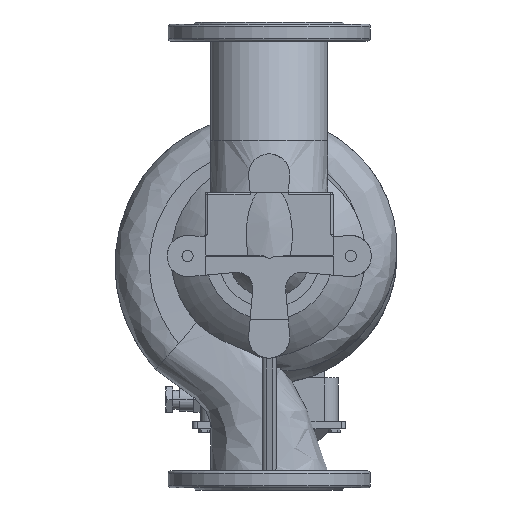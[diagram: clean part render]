
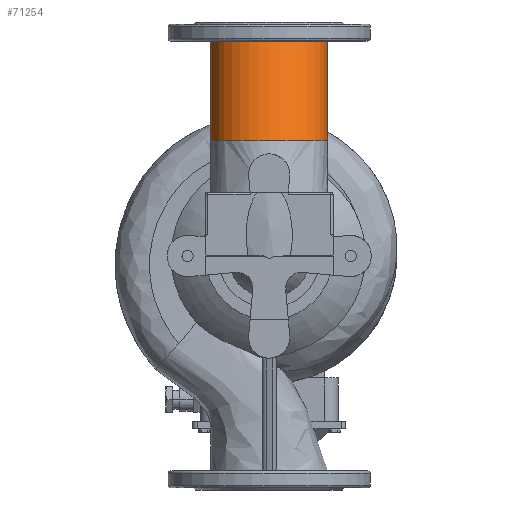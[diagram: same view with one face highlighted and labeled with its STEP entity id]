
A CAD part, front view. The second image highlights one B-rep face of the part: STEP entity #71254.
In plain terms, the highlighted free-form (B-spline) face has degree [3, 1] with [4, 2] control points.
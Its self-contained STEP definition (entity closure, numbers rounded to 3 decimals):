
#182 = CARTESIAN_POINT ( 'NONE',  ( -82.5, 0., 303. ) ) ;
#1757 = DIRECTION ( 'NONE',  ( 0., 0., -1. ) ) ;
#6081 = VERTEX_POINT ( 'NONE', #61343 ) ;
#6546 = EDGE_LOOP ( 'NONE', ( #70865, #73669, #34055, #46552 ) ) ;
#9302 = EDGE_CURVE ( 'NONE', #30159, #16678, #30650, .T. ) ;
#10199 = CARTESIAN_POINT ( 'NONE',  ( -82.5, 0., 303. ) ) ;
#14967 = CARTESIAN_POINT ( 'NONE',  ( 82.5, 0., 303. ) ) ;
#15871 = CARTESIAN_POINT ( 'NONE',  ( -82.5, -65.302, 162.96 ) ) ;
#16481 = EDGE_CURVE ( 'NONE', #6081, #26767, #16808, .T. ) ;
#16678 = VERTEX_POINT ( 'NONE', #63398 ) ;
#16808 = CIRCLE ( 'NONE', #38528, 82.5 ) ;
#18267 = EDGE_CURVE ( 'NONE', #6081, #30159, #40298, .T. ) ;
#18327 = CARTESIAN_POINT ( 'NONE',  ( 82.5, -230.302, 162.96 ) ) ;
#18426 = CARTESIAN_POINT ( 'NONE',  ( 0., -65.302, 162.96 ) ) ;
#22884 = FACE_OUTER_BOUND ( 'NONE', #6546, .T. ) ;
#26767 = VERTEX_POINT ( 'NONE', #41587 ) ;
#30159 = VERTEX_POINT ( 'NONE', #42608 ) ;
#30650 = CIRCLE ( 'NONE', #40336, 82.5 ) ;
#31637 = DIRECTION ( 'NONE',  ( -1., 0., 0. ) ) ;
#34055 = ORIENTED_EDGE ( 'NONE', *, *, #9302, .T. ) ;
#34625 = CARTESIAN_POINT ( 'NONE',  ( 82.5, -65.302, 162.96 ) ) ;
#38498 =( BOUNDED_SURFACE ( )  B_SPLINE_SURFACE ( 3, 1, ( 
 ( #34625, #58072 ),
 ( #18327, #57714 ),
 ( #58444, #69076 ),
 ( #41425, #182 ) ),
 .UNSPECIFIED., .F., .F., .F. ) 
 B_SPLINE_SURFACE_WITH_KNOTS ( ( 4, 4 ),
 ( 2, 2 ),
 ( 0.5, 1. ),
 ( 0., 1. ),
 .UNSPECIFIED. ) 
 GEOMETRIC_REPRESENTATION_ITEM ( )  RATIONAL_B_SPLINE_SURFACE ( (
 ( 1., 1.),
 ( 0.333, 0.333),
 ( 0.333, 0.333),
 ( 1., 1.) ) ) 
 REPRESENTATION_ITEM ( '' )  SURFACE ( )  );
#38528 = AXIS2_PLACEMENT_3D ( 'NONE', #18426, #1757, #31637 ) ;
#40298 = B_SPLINE_CURVE_WITH_KNOTS ( 'NONE', 1,
 ( #55080, #14967 ),
 .UNSPECIFIED., .F., .F.,
 ( 2, 2 ),
 ( 0., 1. ),
 .UNSPECIFIED. ) ;
#40336 = AXIS2_PLACEMENT_3D ( 'NONE', #56647, #50967, #74062 ) ;
#41425 = CARTESIAN_POINT ( 'NONE',  ( -82.5, -65.302, 162.96 ) ) ;
#41587 = CARTESIAN_POINT ( 'NONE',  ( -82.5, -65.302, 162.96 ) ) ;
#42608 = CARTESIAN_POINT ( 'NONE',  ( 82.5, 0., 303. ) ) ;
#44928 = B_SPLINE_CURVE_WITH_KNOTS ( 'NONE', 1,
 ( #15871, #10199 ),
 .UNSPECIFIED., .F., .F.,
 ( 2, 2 ),
 ( 0., 1. ),
 .UNSPECIFIED. ) ;
#46552 = ORIENTED_EDGE ( 'NONE', *, *, #51263, .F. ) ;
#50967 = DIRECTION ( 'NONE',  ( 0., 0., -1. ) ) ;
#51263 = EDGE_CURVE ( 'NONE', #26767, #16678, #44928, .T. ) ;
#55080 = CARTESIAN_POINT ( 'NONE',  ( 82.5, -65.302, 162.96 ) ) ;
#56647 = CARTESIAN_POINT ( 'NONE',  ( 0., 0., 303. ) ) ;
#57714 = CARTESIAN_POINT ( 'NONE',  ( 82.5, -165., 303. ) ) ;
#58072 = CARTESIAN_POINT ( 'NONE',  ( 82.5, 0., 303. ) ) ;
#58444 = CARTESIAN_POINT ( 'NONE',  ( -82.5, -230.302, 162.96 ) ) ;
#61343 = CARTESIAN_POINT ( 'NONE',  ( 82.5, -65.302, 162.96 ) ) ;
#63398 = CARTESIAN_POINT ( 'NONE',  ( -82.5, 0., 303. ) ) ;
#69076 = CARTESIAN_POINT ( 'NONE',  ( -82.5, -165., 303. ) ) ;
#70865 = ORIENTED_EDGE ( 'NONE', *, *, #16481, .F. ) ;
#71254 = ADVANCED_FACE ( 'NONE', ( #22884 ), #38498, .F. ) ;
#73669 = ORIENTED_EDGE ( 'NONE', *, *, #18267, .T. ) ;
#74062 = DIRECTION ( 'NONE',  ( -1., 0., 0. ) ) ;
